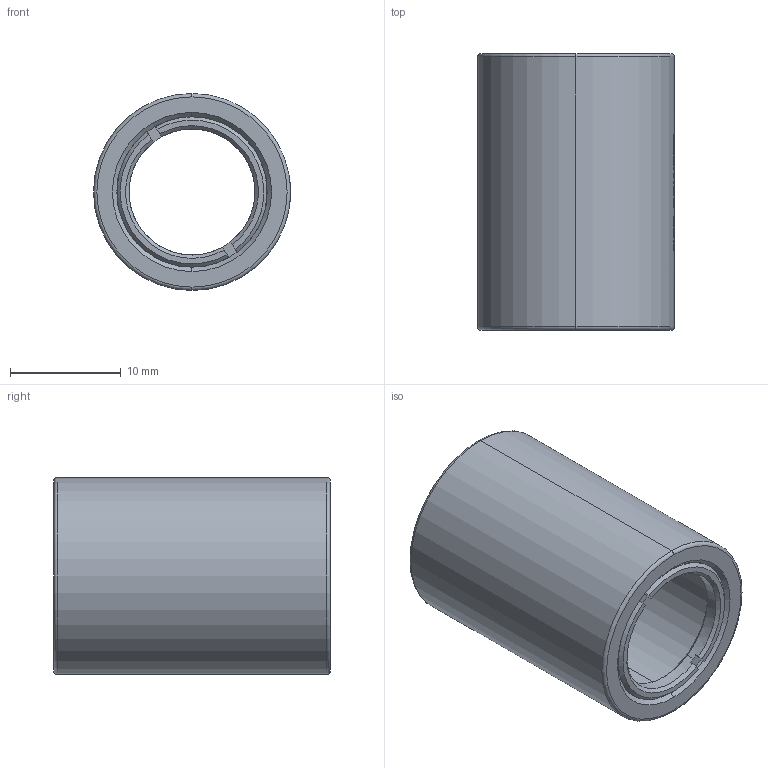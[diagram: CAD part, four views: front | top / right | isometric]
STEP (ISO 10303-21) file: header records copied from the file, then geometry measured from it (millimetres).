
FILE_DESCRIPTION (( 'STEP AP203' ), '1' );
FILE_NAME ('CSSM05-25B.STEP', '2025-08-29T02:14:54', ( '' ), ( '' ), 'SwSTEP 2.0', 'SolidWorks 2020', '' );
FILE_SCHEMA (( 'CONFIG_CONTROL_DESIGN' ));
Length unit declared in the file: millimetre
Products named in the file (1): CSSM05-25B
Bounding box: 17.8 x 25 x 17.8 mm (x, y, z)
Volume: 2715.3 mm3; surface area: 3025.9 mm2
Topology: 3 solids, 3 shells, 381 faces, 1046 edges, 692 vertices
Faces by surface type: bspline 251, plane 71, cylinder 35, cone 20, torus 4
Entity records: 22312 total; most frequent: CARTESIAN_POINT 14790, ORIENTED_EDGE 2092, EDGE_CURVE 1046, B_SPLINE_CURVE_WITH_KNOTS 802, VERTEX_POINT 692, DIRECTION 608, EDGE_LOOP 408, ADVANCED_FACE 381
